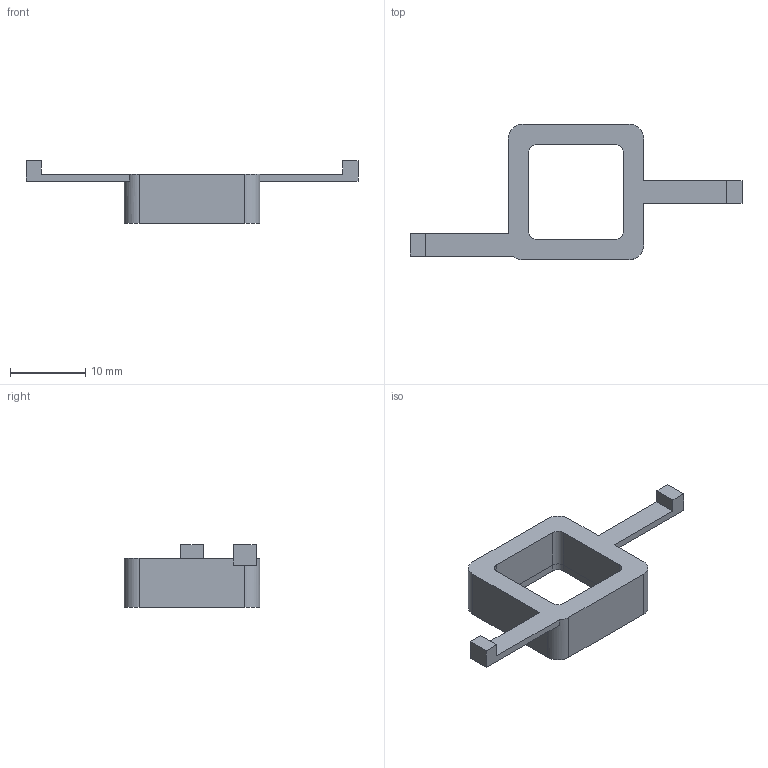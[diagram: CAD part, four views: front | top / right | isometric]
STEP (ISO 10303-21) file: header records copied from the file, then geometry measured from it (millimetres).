
FILE_DESCRIPTION(('Open CASCADE Model'),'2;1');
FILE_NAME('Open CASCADE Shape Model','2026-09-04T20:18:28',('Author'),( 'Open CASCADE'),'Open CASCADE STEP processor 7.7','Open CASCADE 7.7' ,'Unknown');
FILE_SCHEMA(('AUTOMOTIVE_DESIGN { 1 0 10303 214 1 1 1 1 }'));
Length unit declared in the file: millimetre
Products named in the file (1): Open CASCADE STEP translator 7.7 19
Bounding box: 44 x 18 x 8.3 mm (x, y, z)
Volume: 1150.4 mm3; surface area: 1332.1 mm2
Topology: 1 solids, 1 shells, 39 faces, 108 edges, 72 vertices
Faces by surface type: plane 27, cylinder 12
Entity records: 2677 total; most frequent: CARTESIAN_POINT 460, DIRECTION 425, LINE 274, VECTOR 274, ORIENTED_EDGE 216, PCURVE 216, DEFINITIONAL_REPRESENTATION 216, EDGE_CURVE 108
